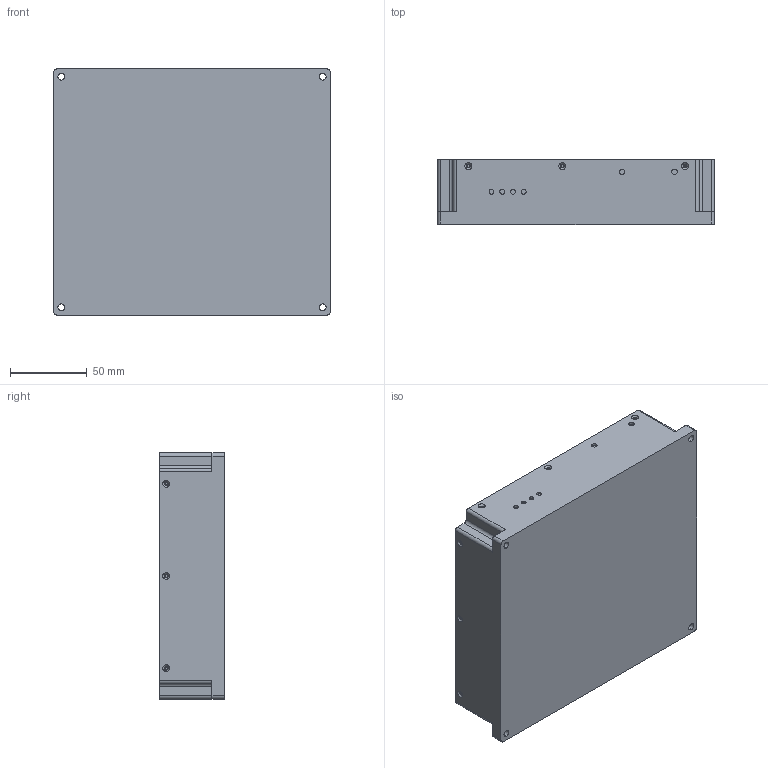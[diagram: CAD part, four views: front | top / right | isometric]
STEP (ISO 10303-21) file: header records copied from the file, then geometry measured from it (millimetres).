
FILE_DESCRIPTION(/* description */ (''),/* implementation_level */ '2;1');
FILE_NAME(/* name */ '新装配体1_step.stp',/* time_stamp */ '2026-07-21T15:31:01+08:00',/* author */ (''),/* organization */ (''),/* preprocessor_version */ 'ST-DEVELOPER v20.1',/* originating_system */ 'SIEMENS PLM Software NX2512.1700',/* authorisation */ '');
FILE_SCHEMA (('AUTOMOTIVE_DESIGN { 1 0 10303 214 3 1 1 1 }'));
Length unit declared in the file: millimetre
Products named in the file (3): 工程应用EDFA上盖; 工程应用EDFA; 装配体1_step
Assembly tree (2 placements, depth 2):
  装配体1_step
    工程应用EDFA
    工程应用EDFA上盖
Bounding box: 180 x 42 x 160 mm (x, y, z)
Volume: 1174169.3 mm3; surface area: 145582.7 mm2
Topology: 2 solids, 2 shells, 284 faces, 748 edges, 484 vertices
Faces by surface type: plane 129, cylinder 117, cone 38
Full cylindrical faces by diameter (mm): 2.05 x3
Entity records: 8880 total; most frequent: DIRECTION 1582, CARTESIAN_POINT 1510, ORIENTED_EDGE 1478, EDGE_CURVE 739, AXIS2_PLACEMENT_3D 556, VERTEX_POINT 484, LINE 470, VECTOR 470
